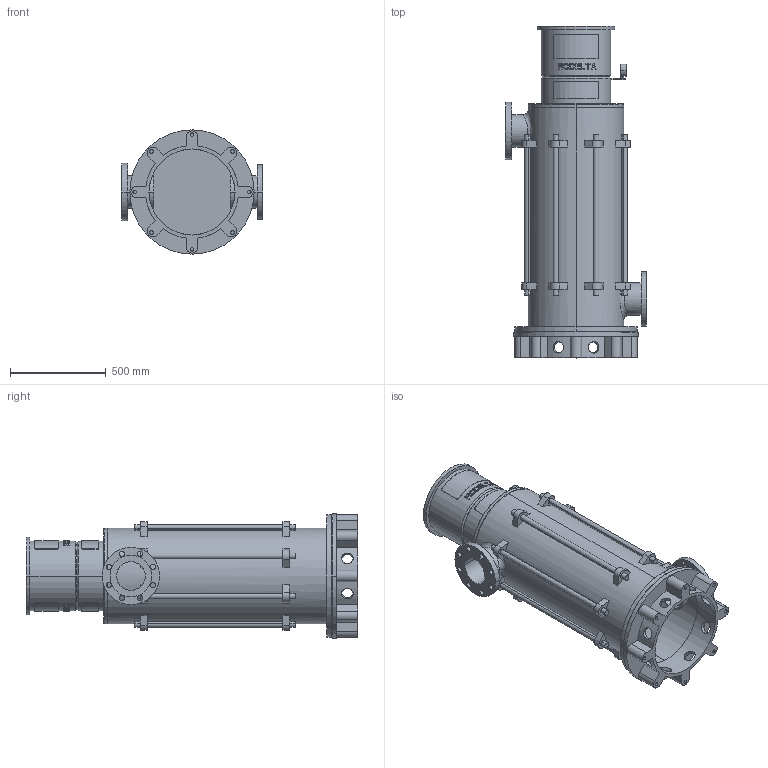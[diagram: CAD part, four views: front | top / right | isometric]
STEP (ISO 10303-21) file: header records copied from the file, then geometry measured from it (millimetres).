
FILE_DESCRIPTION((''),'2;1');
FILE_NAME('LS6_5TR_0GR_PN25_TOT_30KW','2025-10-24T12:18:14',('Lyritlocal'),(''),'CREO PARAMETRIC BY PTC INC, 2022014','CREO PARAMETRIC BY PTC INC, 2022014','');
FILE_SCHEMA(('CONFIG_CONTROL_DESIGN'));
Length unit declared in the file: millimetre
Products named in the file (1): LS6_5TR_0GR_PN25_TOT_30KW
Bounding box: 740 x 1735 x 650 mm (x, y, z)
Volume: 52844184.4 mm3; surface area: 7339795.1 mm2
Topology: 3 solids, 11 shells, 732 faces, 1889 edges, 1258 vertices
Faces by surface type: plane 438, cylinder 274, cone 12, bspline 8
Entity records: 24200 total; most frequent: CARTESIAN_POINT 6380, ORIENTED_EDGE 3746, DIRECTION 3535, EDGE_CURVE 1889, AXIS2_PLACEMENT_3D 1341, VERTEX_POINT 1258, EDGE_LOOP 895, VECTOR 853
